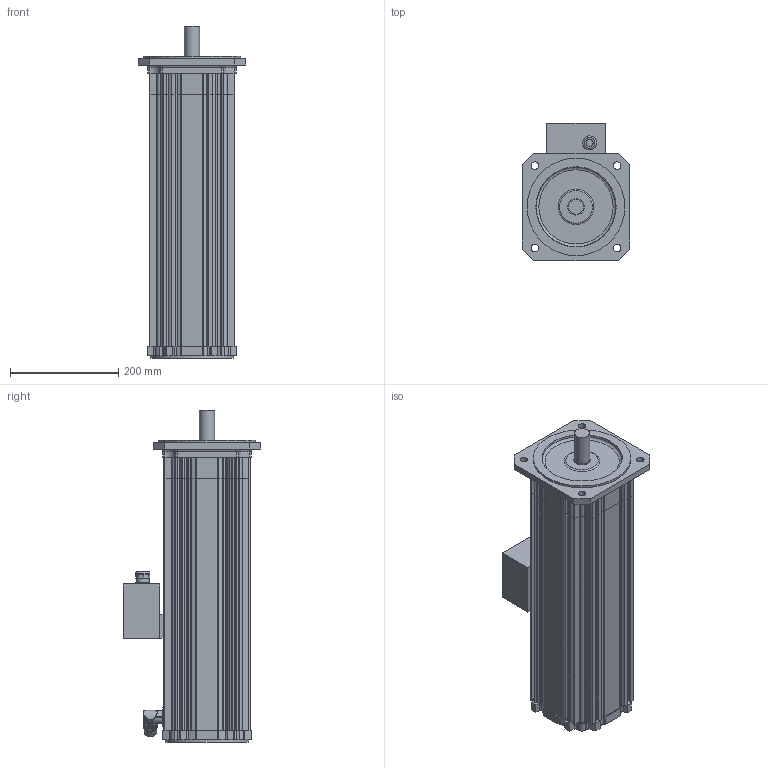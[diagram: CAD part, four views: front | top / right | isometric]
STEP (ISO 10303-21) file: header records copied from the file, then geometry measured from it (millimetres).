
FILE_DESCRIPTION(/* description */ (''),/* implementation_level */ '2;1');
FILE_NAME(/* name */ 'KSA8220_MC_Ix',/* time_stamp */ '2009-03-02T09:00:50+01:00',/* author */ (''),/* organization */ (''),/* preprocessor_version */ 'ST-DEVELOPER v8',/* originating_system */ 'UNIGRAPHICS SOLUTIONS - UNIGRAPHICS 18.0',/* authorisation */ '');
FILE_SCHEMA (('AUTOMOTIVE_DESIGN { 1 2 10303 214 0 1 1 1 }'));
Length unit declared in the file: millimetre
Products named in the file (7): 0280391600_0; Winkelflanschdose_0; Lagersch_8BS_0; Lagersch_8AS_0; 089107X_0; SK3958_0; KSA8412_MC_Ix_0
Assembly tree (6 placements, depth 3):
  KSA8412_MC_Ix_0
    089107X_0
    Lagersch_8AS_0
    Lagersch_8BS_0
    SK3958_0
      0280391600_0
    Winkelflanschdose_0
Bounding box: 198 x 253.35 x 612.5 mm (x, y, z)
Volume: 4233433.3 mm3; surface area: 1052956.2 mm2
Topology: 7 solids, 7 shells, 832 faces, 2360 edges, 1563 vertices
Faces by surface type: cylinder 484, plane 323, torus 23, cone 2
Full cylindrical faces by diameter (mm): 13 x1, 14 x4, 16 x1, 20 x3, 21 x1, 21.5 x1, 23 x2, 24 x1, 26 x1, 28 x1, 30 x1, 35 x1, 143 x1, 149.6 x2, 151 x2, 154 x1, 180 x1
Entity records: 27709 total; most frequent: CARTESIAN_POINT 5454, DIRECTION 4726, ORIENTED_EDGE 4644, EDGE_CURVE 2322, AXIS2_PLACEMENT_3D 1729, VERTEX_POINT 1555, LINE 1268, VECTOR 1268
